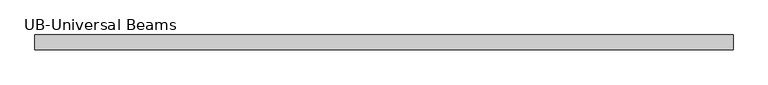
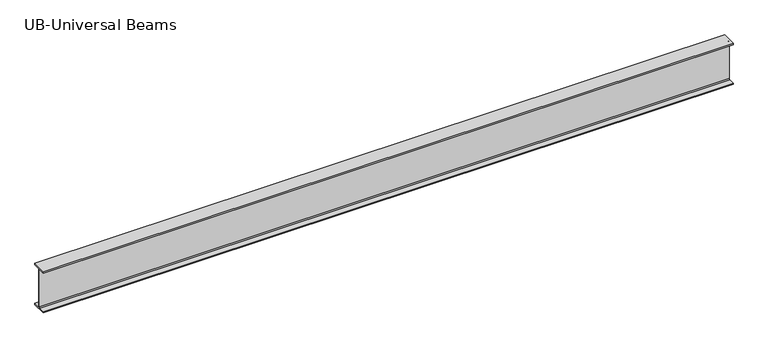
"""IFC4 building model written with IfcOpenShell, lengths in millimetres: beam geometry."""

from ifc_helpers import new_model, si_unit, point, frame, frame_2d, origin, place, context, project, spatial, polyline, circle_curve, trimmed, segment, composite_curve, outline, extrude, source, transform, mapped, element, save


def ub_universal_beams_e00400c9(model_context):
    return source(origin(), model_context, "Body", "SweptSolid", [
        extrude(outline(composite_curve([segment(polyline([(76.9, -214.0), (76.9, -229.0), (-76.9, -229.0), (-76.9, -214.0), (-14.7, -214.0)]), True, "CONTINUOUS"), segment(trimmed(circle_curve(frame_2d((-14.7, -203.8)), 10.2), [point((-14.7, -214.0))], [point((-4.5, -203.8))], True, "CARTESIAN"), True, "CONTINUOUS"), segment(polyline([(-4.5, -203.8), (-4.5, 203.8)]), True, "CONTINUOUS"), segment(trimmed(circle_curve(frame_2d((-14.7, 203.8)), 10.2), [point((-4.5, 203.8))], [point((-14.7, 214.0))], True, "CARTESIAN"), True, "CONTINUOUS"), segment(polyline([(-14.7, 214.0), (-76.9, 214.0), (-76.9, 229.0), (76.9, 229.0), (76.9, 214.0), (14.7, 214.0)]), True, "CONTINUOUS"), segment(trimmed(circle_curve(frame_2d((14.7, 203.8)), 10.2), [point((14.7, 214.0))], [point((4.5, 203.8))], True, "CARTESIAN"), True, "CONTINUOUS"), segment(polyline([(4.5, 203.8), (4.5, -203.8)]), True, "CONTINUOUS"), segment(trimmed(circle_curve(frame_2d((14.7, -203.8)), 10.2), [point((4.5, -203.8))], [point((14.7, -214.0))], True, "CARTESIAN"), True, "CONTINUOUS"), segment(polyline([(14.7, -214.0), (76.9, -214.0)]), True, "CONTINUOUS")], self_intersect=False)), frame((-3637.3, 0.0, 0.0), z_axis=(1.0, 0.0, 0.0), x_axis=(0.0, 1.0, 0.0)), (0.0, 0.0, 1.0), 7252.3),
    ])


if __name__ == "__main__":
    model = new_model("IFC4")
    model_context = context("Model", 3, world=origin())
    ifc_project = project(units=[si_unit("LENGTHUNIT", "METRE", prefix="MILLI")], contexts=[model_context])
    site = spatial("IfcSite", under=ifc_project)
    building = spatial("IfcBuilding", under=site)
    placement = place(None, origin())
    ub_universal_beams_shape = ub_universal_beams_e00400c9(model_context)
    element("IfcBeam", 1, ObjectType="UB-Universal Beams : UB 18\" x 6\" x 2 1/2\"", at=placement, inside=building, context=model_context, shape_type="MappedRepresentation", body=[
        mapped(ub_universal_beams_shape, transform((0.0, 0.0, 0.0), x_axis=(1.0, 0.0, 0.0), y_axis=(0.0, 1.0, 0.0), z_axis=(0.0, 0.0, 1.0))),
    ])
    save(model, "model.ifc")
